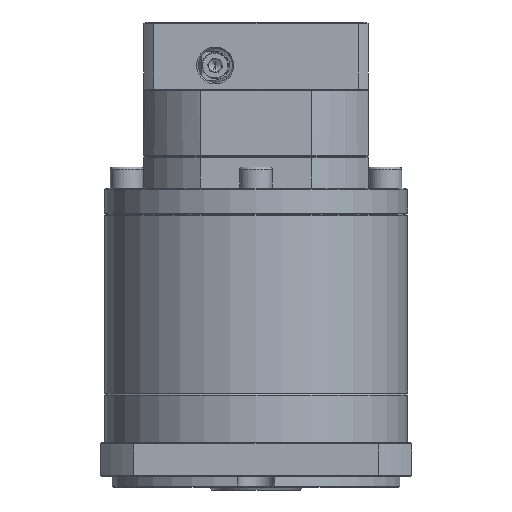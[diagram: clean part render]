
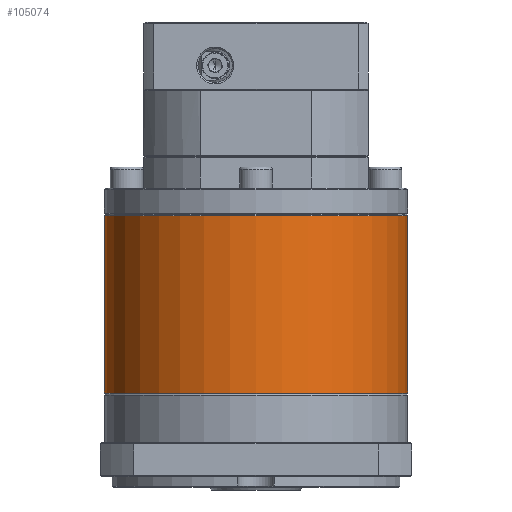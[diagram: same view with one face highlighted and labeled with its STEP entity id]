
A CAD part, front view. The second image highlights one B-rep face of the part: STEP entity #105074.
In plain terms, the highlighted cylindrical face has radius 57.5 mm (diameter 115 mm), a partial arc.
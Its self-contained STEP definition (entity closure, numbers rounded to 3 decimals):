
#4549 = DIRECTION ( 'NONE',  ( 0., 0., 1. ) ) ;
#6222 = DIRECTION ( 'NONE',  ( -1., 0., 0. ) ) ;
#7403 = CARTESIAN_POINT ( 'NONE',  ( 74.877, 81.624, -66.942 ) ) ;
#8028 = DIRECTION ( 'NONE',  ( 0., 0., -1. ) ) ;
#12962 = LINE ( 'NONE', #30224, #79394 ) ;
#15503 = CARTESIAN_POINT ( 'NONE',  ( 74.877, 24.124, -66.942 ) ) ;
#15540 = DIRECTION ( 'NONE',  ( -1., 0., 0. ) ) ;
#15871 = ORIENTED_EDGE ( 'NONE', *, *, #56660, .T. ) ;
#18133 = DIRECTION ( 'NONE',  ( 0., 0., -1. ) ) ;
#22752 = AXIS2_PLACEMENT_3D ( 'NONE', #103274, #44137, #15540 ) ;
#26851 = DIRECTION ( 'NONE',  ( -1., 0., 0. ) ) ;
#29478 = CARTESIAN_POINT ( 'NONE',  ( 132.377, 81.624, -66.942 ) ) ;
#29574 = EDGE_CURVE ( 'NONE', #105763, #52600, #12962, .T. ) ;
#30224 = CARTESIAN_POINT ( 'NONE',  ( 132.377, 81.624, -66.442 ) ) ;
#30445 = AXIS2_PLACEMENT_3D ( 'NONE', #73793, #4549, #6222 ) ;
#34220 = LINE ( 'NONE', #76378, #47664 ) ;
#37276 = CARTESIAN_POINT ( 'NONE',  ( 17.377, 81.624, -66.942 ) ) ;
#37943 = DIRECTION ( 'NONE',  ( -1., 0., 0. ) ) ;
#44137 = DIRECTION ( 'NONE',  ( 0., 0., -1. ) ) ;
#44603 = AXIS2_PLACEMENT_3D ( 'NONE', #7403, #75777, #26851 ) ;
#47664 = VECTOR ( 'NONE', #18133, 1000. ) ;
#49529 = DIRECTION ( 'NONE',  ( 0., 0., -1. ) ) ;
#52600 = VERTEX_POINT ( 'NONE', #62994 ) ;
#54511 = ORIENTED_EDGE ( 'NONE', *, *, #29574, .F. ) ;
#56570 = ORIENTED_EDGE ( 'NONE', *, *, #59440, .T. ) ;
#56660 = EDGE_CURVE ( 'NONE', #120037, #58753, #121951, .T. ) ;
#58753 = VERTEX_POINT ( 'NONE', #37276 ) ;
#59440 = EDGE_CURVE ( 'NONE', #99288, #52600, #121852, .T. ) ;
#62994 = CARTESIAN_POINT ( 'NONE',  ( 132.377, 81.624, -134.153 ) ) ;
#70237 = CIRCLE ( 'NONE', #44603, 57.5 ) ;
#73793 = CARTESIAN_POINT ( 'NONE',  ( 74.877, 81.624, -134.153 ) ) ;
#75777 = DIRECTION ( 'NONE',  ( 0., 0., -1. ) ) ;
#76378 = CARTESIAN_POINT ( 'NONE',  ( 17.377, 81.624, -66.442 ) ) ;
#79394 = VECTOR ( 'NONE', #49529, 1000. ) ;
#86130 = CARTESIAN_POINT ( 'NONE',  ( 74.877, 81.624, -66.442 ) ) ;
#87439 = FACE_OUTER_BOUND ( 'NONE', #115727, .T. ) ;
#88436 = ORIENTED_EDGE ( 'NONE', *, *, #121219, .T. ) ;
#99288 = VERTEX_POINT ( 'NONE', #120333 ) ;
#103274 = CARTESIAN_POINT ( 'NONE',  ( 74.877, 81.624, -66.942 ) ) ;
#104023 = ORIENTED_EDGE ( 'NONE', *, *, #119536, .T. ) ;
#105074 = ADVANCED_FACE ( 'NONE', ( #87439 ), #110035, .T. ) ;
#105763 = VERTEX_POINT ( 'NONE', #29478 ) ;
#110035 = CYLINDRICAL_SURFACE ( 'NONE', #124560, 57.5 ) ;
#115727 = EDGE_LOOP ( 'NONE', ( #54511, #104023, #15871, #88436, #56570 ) ) ;
#119536 = EDGE_CURVE ( 'NONE', #105763, #120037, #70237, .T. ) ;
#120037 = VERTEX_POINT ( 'NONE', #15503 ) ;
#120333 = CARTESIAN_POINT ( 'NONE',  ( 17.377, 81.624, -134.153 ) ) ;
#121219 = EDGE_CURVE ( 'NONE', #58753, #99288, #34220, .T. ) ;
#121852 = CIRCLE ( 'NONE', #30445, 57.5 ) ;
#121951 = CIRCLE ( 'NONE', #22752, 57.5 ) ;
#124560 = AXIS2_PLACEMENT_3D ( 'NONE', #86130, #8028, #37943 ) ;
